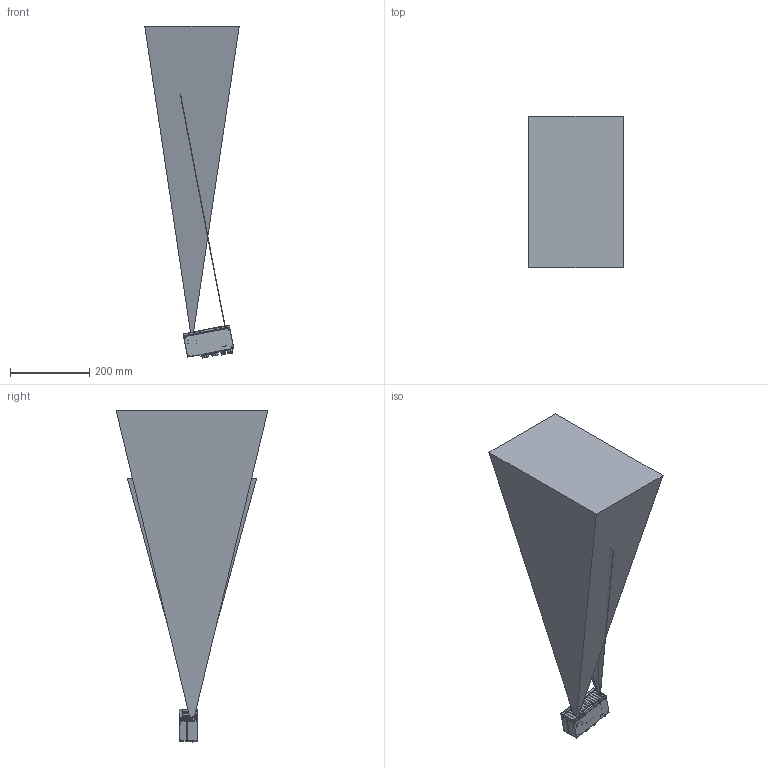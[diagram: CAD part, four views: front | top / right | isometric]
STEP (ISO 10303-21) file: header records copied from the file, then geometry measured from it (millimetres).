
FILE_DESCRIPTION((''),'2;1');
FILE_NAME('ASM0020_ASM','2024-08-23T',('qqwan'),(''),'PRO/ENGINEER BY PARAMETRIC TECHNOLOGY CORPORATION, 2010280','PRO/ENGINEER BY PARAMETRIC TECHNOLOGY CORPORATION, 2010280','');
FILE_SCHEMA(('CONFIG_CONTROL_DESIGN'));
Products named in the file (77): PRT0069; PRT0070; PRT0071; PRT0072; PRT0073; PRT0074; PRT0075; PRT0076; PRT0077; PRT0078; PRT0079; PRT0080; ASM0024_ASM; PRT0081; PRT0082; PRT0083; PRT0084; ASM0023_ASM; PRT0085; PRT0086; PRT0087; PRT0088; PRT0089; PRT0090; PRT0091; PRT0092; PRT0093; PRT0094; PRT0095; PRT0096; PRT0097; PRT0098; PRT0099; PRT0100; PRT0101; PRT0102; PRT0103; PRT0104; PRT0105; PRT0106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
Assembly tree (122 placements, depth 6):
  ASM0020_ASM
    ASM0021_ASM
      ASM0022_ASM
        ASM0023_ASM
          PRT0069
          PRT0070
          PRT0071
          PRT0072  x7
          PRT0073
          PRT0074
          PRT0075
          PRT0076  x8
          PRT0077  x2
          PRT0078  x4
          ASM0024_ASM
            PRT0079
            PRT0080
          PRT0081
          PRT0082
          PRT0083
          PRT0084
        ASM0025_ASM
          PRT0085
          PRT0086
          PRT0087  x4
          PRT0088  x4
          PRT0089  x2
          PRT0090  x8
          PRT0091  x2
          ASM0026_ASM
            PRT0092
            PRT0093
            PRT0094
            PRT0095
            PRT0096
            PRT0097
            PRT0098
            PRT0099
            PRT0100
            PRT0101
            PRT0102
            PRT0103
            PRT0104
            PRT0105
            PRT0106
            PRT0107
            PRT0108
            PRT0109
            PRT0110
            PRT0111
            PRT0112
            PRT0113
            PRT0114
            PRT0115
            PRT0116
            PRT0117
            PRT0118
            PRT0119
            PRT0120
          PRT0121
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Bounding box: 239.12 x 384.13 x 840.42 mm (x, y, z)
Volume: 99703.9 mm3; surface area: 1058393.7 mm2
Topology: 1 solids, 154 shells, 5755 faces, 15819 edges, 10568 vertices
Faces by surface type: plane 3674, cylinder 1218, extrusion 459, cone 252, torus 94, sphere 58
Entity records: 156100 total; most frequent: CARTESIAN_POINT 33424, ORIENTED_EDGE 25750, DIRECTION 23778, EDGE_CURVE 12947, VECTOR 9772, LINE 9313, VERTEX_POINT 8710, AXIS2_PLACEMENT_3D 7003
